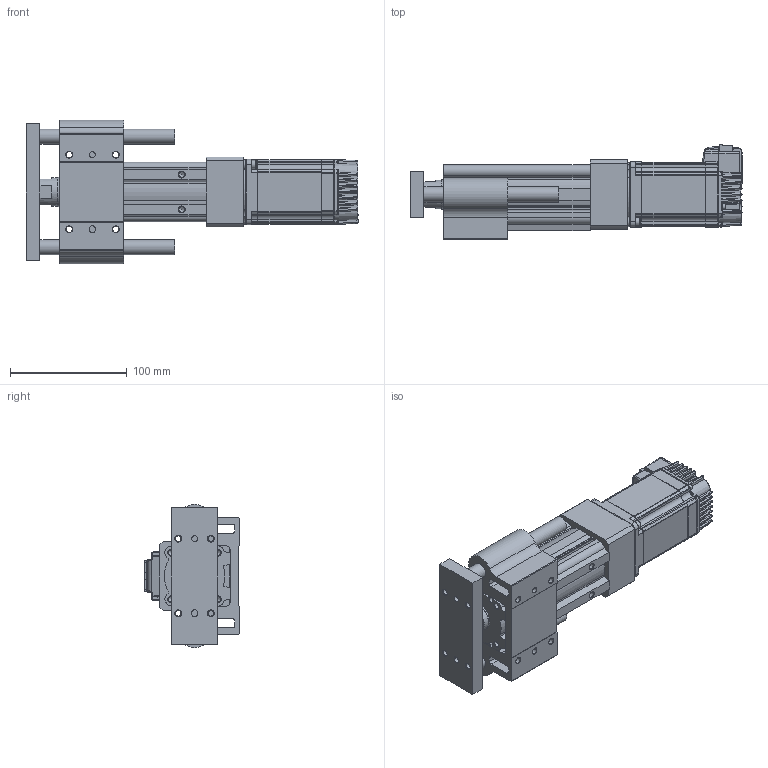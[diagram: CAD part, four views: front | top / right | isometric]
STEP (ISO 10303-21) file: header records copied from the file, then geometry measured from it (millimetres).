
FILE_DESCRIPTION (( 'STEP AP214' ), '1' );
FILE_NAME ('LEYG3(+)-32LDNM1□-30-23L.STEP', '2023-04-14T06:50:24', ( '' ), ( '' ), 'SwSTEP 2.0', 'SolidWorks 2019', '' );
FILE_SCHEMA (( 'AUTOMOTIVE_DESIGN' ));
Length unit declared in the file: millimetre
Products named in the file (6): LEY3(+)-32DNM1_MOTOR Flange; LEYG3(+)-32LNM1□_ATTACH_30; LEYG3(+)-32LDNM1□-30-23L; LEYG3(+)-32LNM1?_ROD_30; CM3(+)-23L50A_2-M4_01; LEYG3(+)-32NM1?_BODY_30
Assembly tree (5 placements, depth 2):
  LEYG3(+)-32LDNM1□-30-23L
    LEYG3(+)-32NM1?_BODY_30
    LEYG3(+)-32LNM1?_ROD_30
    LEYG3(+)-32LNM1□_ATTACH_30
    LEY3(+)-32DNM1_MOTOR Flange
    CM3(+)-23L50A_2-M4_01
Bounding box: 284.8 x 81.05 x 122.98 mm (x, y, z)
Volume: 916674 mm3; surface area: 175327.6 mm2
Topology: 5 solids, 14 shells, 1518 faces, 3918 edges, 2430 vertices
Faces by surface type: plane 707, cylinder 466, bspline 133, cone 107, torus 58, sphere 47
Full cylindrical faces by diameter (mm): 2.5 x4, 3 x2, 3.2 x4, 4.2 x1, 4.5 x7, 4.9 x10, 5 x2, 6.2 x4, 6.35 x1, 7 x2, 8 x2, 13 x2, 24.5 x1, 25 x2, 32 x2, 38.1 x1
Entity records: 51618 total; most frequent: CARTESIAN_POINT 13066, ORIENTED_EDGE 7520, DIRECTION 7003, EDGE_CURVE 3760, VERTEX_POINT 2406, AXIS2_PLACEMENT_3D 2389, VECTOR 2225, LINE 2225
